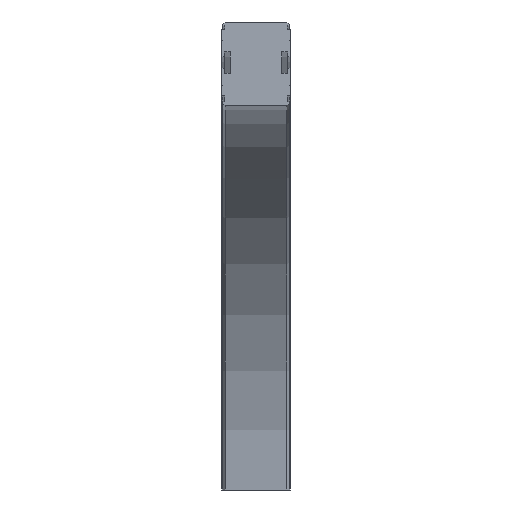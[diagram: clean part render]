
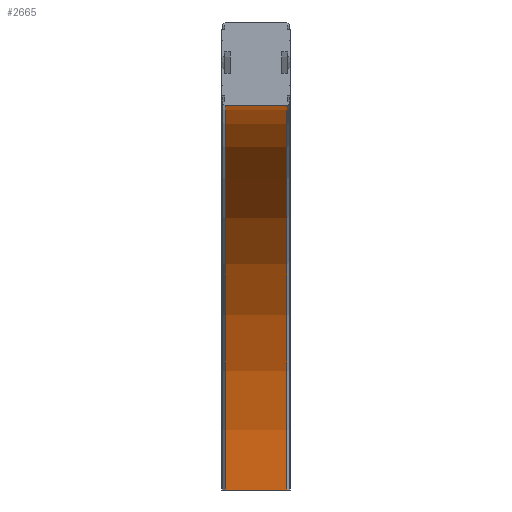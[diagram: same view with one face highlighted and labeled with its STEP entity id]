
A CAD part, left-side view. The second image highlights one B-rep face of the part: STEP entity #2665.
In plain terms, the highlighted cylindrical face has radius 360 mm (diameter 720 mm), a partial arc.
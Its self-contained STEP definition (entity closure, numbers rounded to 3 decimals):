
#2607=CARTESIAN_POINT('',(360.,29.,-438.0));
#2608=VERTEX_POINT('',#2607);
#2615=CARTESIAN_POINT('',(0.0,29.,-78.));
#2616=VERTEX_POINT('',#2615);
#2617=CARTESIAN_POINT('',(0.,29.,-438.0));
#2618=DIRECTION('',(0.0,1.0,0.0));
#2619=DIRECTION('',(0.0,0.0,1.0));
#2620=AXIS2_PLACEMENT_3D('',#2617,#2618,#2619);
#2621=CIRCLE('',#2620,360.);
#2622=EDGE_CURVE('',#2616,#2608,#2621,.T.);
#2634=CARTESIAN_POINT('',(0.,0.,-438.0));
#2635=DIRECTION('',(0.0,1.0,0.0));
#2636=DIRECTION('',(0.0,0.0,1.0));
#2637=AXIS2_PLACEMENT_3D('',#2634,#2635,#2636);
#2638=CYLINDRICAL_SURFACE('',#2637,360.);
#2639=CARTESIAN_POINT('',(360.,-29.,-438.0));
#2640=VERTEX_POINT('',#2639);
#2641=CARTESIAN_POINT('',(360.,29.,-438.0));
#2642=DIRECTION('',(0.0,-1.0,0.0));
#2643=VECTOR('',#2642,58.);
#2644=LINE('',#2641,#2643);
#2645=EDGE_CURVE('',#2608,#2640,#2644,.T.);
#2646=ORIENTED_EDGE('',*,*,#2645,.T.);
#2647=CARTESIAN_POINT('',(0.0,-29.,-78.));
#2648=VERTEX_POINT('',#2647);
#2649=CARTESIAN_POINT('',(0.,-29.,-438.0));
#2650=DIRECTION('',(0.0,1.0,0.0));
#2651=DIRECTION('',(0.0,0.0,1.0));
#2652=AXIS2_PLACEMENT_3D('',#2649,#2650,#2651);
#2653=CIRCLE('',#2652,360.);
#2654=EDGE_CURVE('',#2648,#2640,#2653,.T.);
#2655=ORIENTED_EDGE('',*,*,#2654,.F.);
#2656=CARTESIAN_POINT('',(0.0,-29.,-78.));
#2657=DIRECTION('',(0.0,1.0,0.0));
#2658=VECTOR('',#2657,58.);
#2659=LINE('',#2656,#2658);
#2660=EDGE_CURVE('',#2648,#2616,#2659,.T.);
#2661=ORIENTED_EDGE('',*,*,#2660,.T.);
#2662=ORIENTED_EDGE('',*,*,#2622,.T.);
#2663=EDGE_LOOP('',(#2646,#2655,#2661,#2662));
#2664=FACE_OUTER_BOUND('',#2663,.T.);
#2665=ADVANCED_FACE('',(#2664),#2638,.F.);
